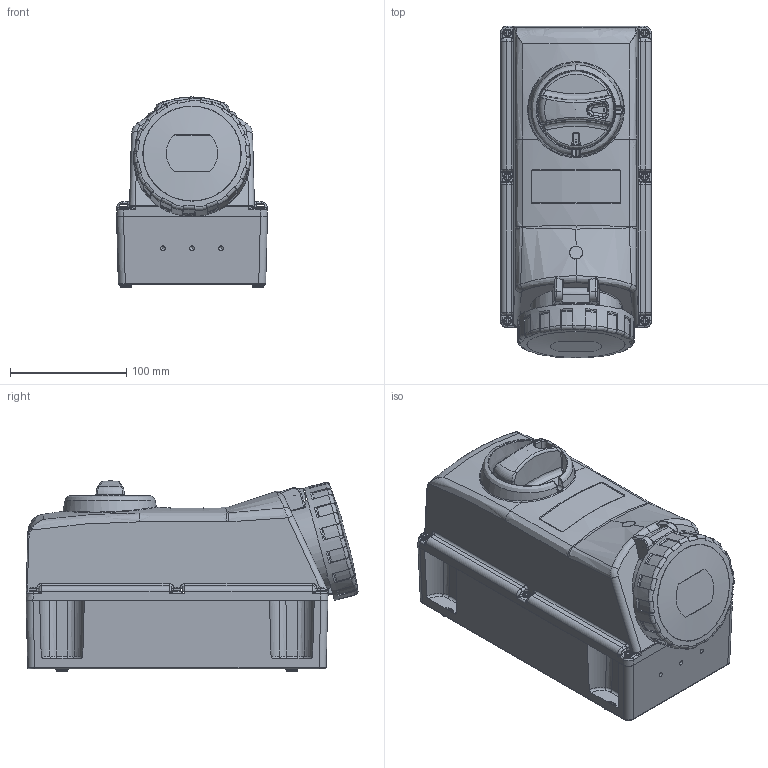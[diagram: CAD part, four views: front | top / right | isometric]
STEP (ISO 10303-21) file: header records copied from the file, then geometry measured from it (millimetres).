
FILE_DESCRIPTION(/* description */ (''),/* implementation_level */ '2;1');
FILE_NAME(/* name */ '4004900.stp',/* time_stamp */ '2017-06-09T08:29:46+02:00',/* author */ (''),/* organization */ (''),/* preprocessor_version */ 'ST-DEVELOPER v16',/* originating_system */ 'SIEMENS PLM Software NX 11.0',/* authorisation */ '');
FILE_SCHEMA (('AUTOMOTIVE_DESIGN { 1 0 10303 214 3 1 1 1 }'));
Length unit declared in the file: millimetre
Products named in the file (1): 4004900_LINKEDEXT_jt
Bounding box: 130 x 285.98 x 163.84 mm (x, y, z)
Surface area: 228062.7 mm2 (no closed solid volume)
Topology: 0 solids, 46 shells, 529 faces, 1745 edges, 1204 vertices
Faces by surface type: bspline 217, cylinder 138, plane 91, torus 39, cone 29, sphere 15
Full cylindrical faces by diameter (mm): 6 x1, 84.4 x1, 84.8 x1, 100.5 x1
Entity records: 31438 total; most frequent: CARTESIAN_POINT 16468, ORIENTED_EDGE 2713, DIRECTION 2255, EDGE_CURVE 1683, VERTEX_POINT 1185, AXIS2_PLACEMENT_3D 904, B_SPLINE_CURVE_WITH_KNOTS 645, EDGE_LOOP 562
